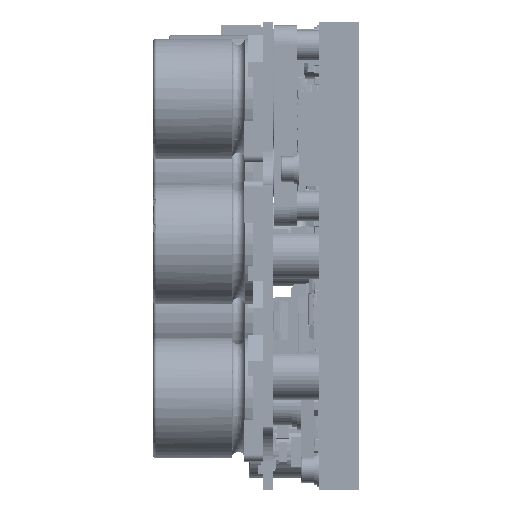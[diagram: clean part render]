
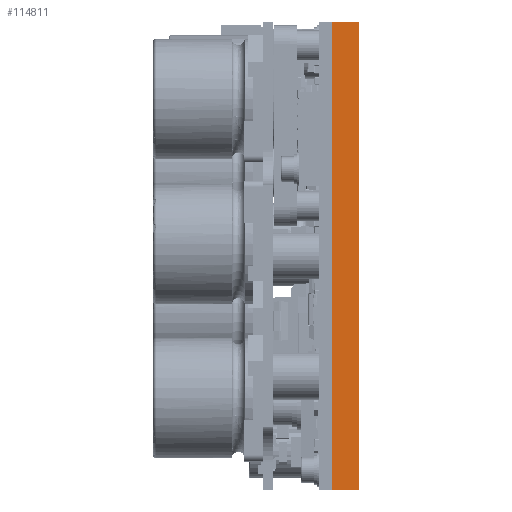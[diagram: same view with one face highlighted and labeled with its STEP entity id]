
A CAD part, left-side view. The second image highlights one B-rep face of the part: STEP entity #114811.
In plain terms, the highlighted planar face has unit normal (-1, 0, 0) as drawn and (1, 0, 0) by its records, which use the part's own axes.
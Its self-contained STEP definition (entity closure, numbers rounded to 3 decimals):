
#39751 = CARTESIAN_POINT ( 'NONE',  ( 180., 70., 0. ) ) ;
#78270 = AXIS2_PLACEMENT_3D ( 'NONE', #345513, #508822, #582270 ) ;
#81965 = ORIENTED_EDGE ( 'NONE', *, *, #551621, .T. ) ;
#114811 = ADVANCED_FACE ( 'NONE', ( #761029 ), #283430, .F. ) ;
#151446 = DIRECTION ( 'NONE',  ( 0., 1., 0. ) ) ;
#166712 = CARTESIAN_POINT ( 'NONE',  ( 180., 0., 4. ) ) ;
#183624 = ORIENTED_EDGE ( 'NONE', *, *, #536425, .F. ) ;
#201235 = VECTOR ( 'NONE', #756385, 1000. ) ;
#209270 = VECTOR ( 'NONE', #465228, 1000. ) ;
#215834 = VECTOR ( 'NONE', #512153, 1000. ) ;
#224508 = LINE ( 'NONE', #228352, #209270 ) ;
#228352 = CARTESIAN_POINT ( 'NONE',  ( 180., 0., 0. ) ) ;
#283430 = PLANE ( 'NONE',  #78270 ) ;
#322707 = VERTEX_POINT ( 'NONE', #677249 ) ;
#345513 = CARTESIAN_POINT ( 'NONE',  ( 180., 0., 4. ) ) ;
#390559 = VERTEX_POINT ( 'NONE', #748562 ) ;
#401743 = ORIENTED_EDGE ( 'NONE', *, *, #720794, .T. ) ;
#414238 = LINE ( 'NONE', #639673, #201235 ) ;
#431045 = EDGE_LOOP ( 'NONE', ( #81965, #183624, #595936, #401743 ) ) ;
#440652 = VERTEX_POINT ( 'NONE', #577443 ) ;
#465228 = DIRECTION ( 'NONE',  ( 0., 1., 0. ) ) ;
#508822 = DIRECTION ( 'NONE',  ( -1., 0., 0. ) ) ;
#512153 = DIRECTION ( 'NONE',  ( 0., 0., -1. ) ) ;
#519386 = VECTOR ( 'NONE', #151446, 1000. ) ;
#536425 = EDGE_CURVE ( 'NONE', #322707, #612017, #643822, .T. ) ;
#551621 = EDGE_CURVE ( 'NONE', #390559, #612017, #224508, .T. ) ;
#570520 = EDGE_CURVE ( 'NONE', #440652, #322707, #760712, .T. ) ;
#577443 = CARTESIAN_POINT ( 'NONE',  ( 180., 0., 4. ) ) ;
#578011 = CARTESIAN_POINT ( 'NONE',  ( 180., 70., 4. ) ) ;
#582270 = DIRECTION ( 'NONE',  ( 0., 0., 1. ) ) ;
#595936 = ORIENTED_EDGE ( 'NONE', *, *, #570520, .F. ) ;
#612017 = VERTEX_POINT ( 'NONE', #39751 ) ;
#639673 = CARTESIAN_POINT ( 'NONE',  ( 180., 0., 4. ) ) ;
#643822 = LINE ( 'NONE', #578011, #215834 ) ;
#677249 = CARTESIAN_POINT ( 'NONE',  ( 180., 70., 4. ) ) ;
#720794 = EDGE_CURVE ( 'NONE', #440652, #390559, #414238, .T. ) ;
#748562 = CARTESIAN_POINT ( 'NONE',  ( 180., 0., 0. ) ) ;
#756385 = DIRECTION ( 'NONE',  ( 0., 0., -1. ) ) ;
#760712 = LINE ( 'NONE', #166712, #519386 ) ;
#761029 = FACE_OUTER_BOUND ( 'NONE', #431045, .T. ) ;
